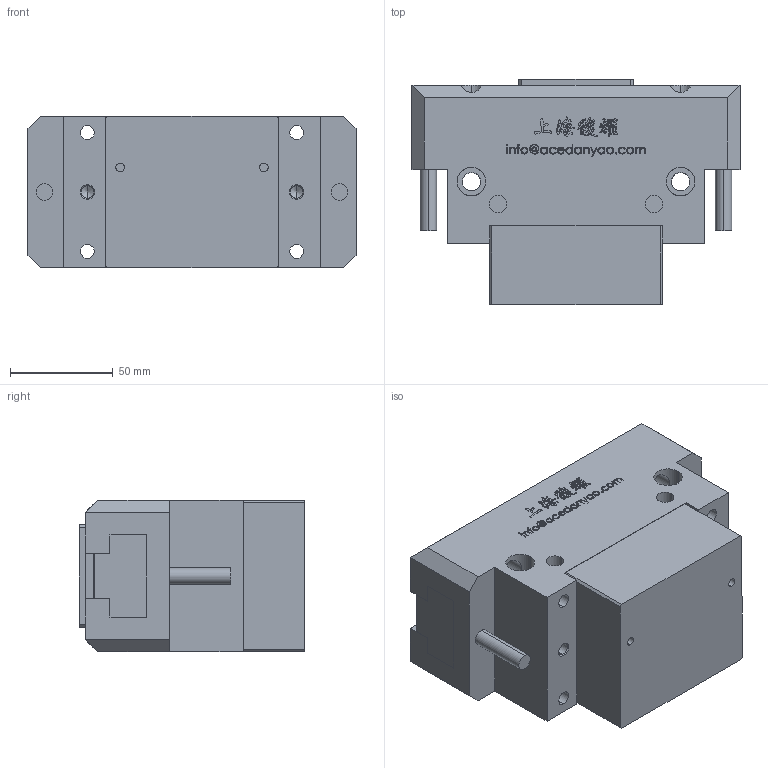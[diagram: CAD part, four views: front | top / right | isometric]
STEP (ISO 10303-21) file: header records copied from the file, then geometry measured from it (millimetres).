
FILE_DESCRIPTION (( 'STEP AP203' ), '1' );
FILE_NAME ('OPP2-160-C1-MC&MA-原始檔-組合-W106.04.19.STEP', '2017-04-19T03:27:48', ( 'DanyaoCAD' ), ( '' ), 'SwSTEP 2.0', 'SolidWorks 2016', '' );
FILE_SCHEMA (( 'CONFIG_CONTROL_DESIGN' ));
Length unit declared in the file: millimetre
Products named in the file (5): Griffa; Corpo; Fondello; Coperchio; OPP2-160-C1-MC&MA-原始檔-組合-W106.04.19
Assembly tree (5 placements, depth 2):
  OPP2-160-C1-MC&MA-原始檔-組合-W106.04.19
    Griffa  x2
    Corpo
    Fondello
    Coperchio
Bounding box: 160 x 110 x 74 mm (x, y, z)
Volume: 939264.4 mm3; surface area: 141614 mm2
Topology: 5 solids, 5 shells, 1019 faces, 2844 edges, 1882 vertices
Faces by surface type: bspline 640, plane 267, cylinder 84, cone 28
Entity records: 49015 total; most frequent: CARTESIAN_POINT 27340, ORIENTED_EDGE 5520, EDGE_CURVE 2760, DIRECTION 2328, VERTEX_POINT 1832, B_SPLINE_CURVE_WITH_KNOTS 1304, LINE 1280, VECTOR 1280
